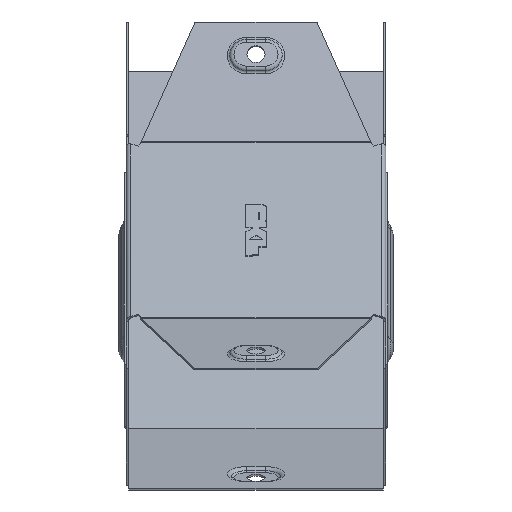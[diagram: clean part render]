
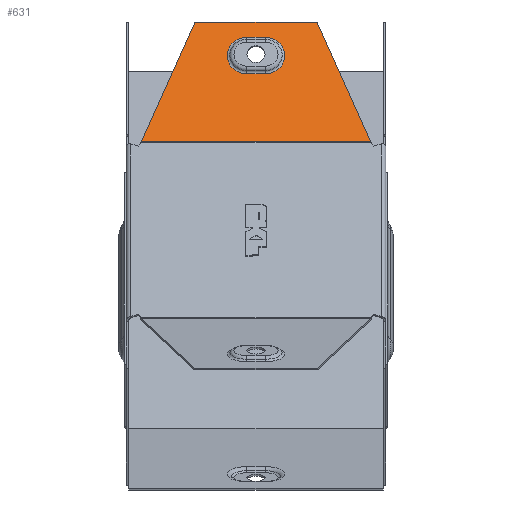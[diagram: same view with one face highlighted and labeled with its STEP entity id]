
A CAD part, front view. The second image highlights one B-rep face of the part: STEP entity #631.
In plain terms, the highlighted planar face has unit normal (0, -0.924, 0.383).
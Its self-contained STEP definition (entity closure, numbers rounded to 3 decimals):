
#10 = PLANE ( 'NONE',  #13091 ) ;
#125 = LINE ( 'NONE', #1134, #5592 ) ;
#631 = ADVANCED_FACE ( 'NONE', ( #11637, #10463 ), #10, .F. ) ;
#1056 = EDGE_CURVE ( 'NONE', #5964, #12971, #125, .T. ) ;
#1134 = CARTESIAN_POINT ( 'NONE',  ( 48.2, 70.076, -1.934 ) ) ;
#1248 = CARTESIAN_POINT ( 'NONE',  ( 3.5, 83.777, 31.142 ) ) ;
#1285 = VERTEX_POINT ( 'NONE', #10682 ) ;
#1595 = DIRECTION ( 'NONE',  ( 0., 0.924, -0.383 ) ) ;
#1774 = ORIENTED_EDGE ( 'NONE', *, *, #1056, .F. ) ;
#1884 = CARTESIAN_POINT ( 'NONE',  ( -23.5, 89.134, 44.076 ) ) ;
#2274 = DIRECTION ( 'NONE',  ( -1., 0., 0. ) ) ;
#2592 = VECTOR ( 'NONE', #8985, 1000. ) ;
#3437 = LINE ( 'NONE', #7061, #10054 ) ;
#3585 = DIRECTION ( 'NONE',  ( 0., 0.924, -0.383 ) ) ;
#3601 = VECTOR ( 'NONE', #2274, 1000. ) ;
#3916 = DIRECTION ( 'NONE',  ( 0., 0.383, 0.924 ) ) ;
#4252 = DIRECTION ( 'NONE',  ( 0., 0.383, 0.924 ) ) ;
#4651 = LINE ( 'NONE', #5510, #3601 ) ;
#4964 = DIRECTION ( 'NONE',  ( -0.383, -0.354, -0.854 ) ) ;
#5170 = EDGE_CURVE ( 'NONE', #7921, #12971, #3437, .T. ) ;
#5307 = CARTESIAN_POINT ( 'NONE',  ( -3.5, 80.869, 24.122 ) ) ;
#5358 = VERTEX_POINT ( 'NONE', #7437 ) ;
#5510 = CARTESIAN_POINT ( 'NONE',  ( 3.5, 80.869, 24.122 ) ) ;
#5592 = VECTOR ( 'NONE', #10813, 1000. ) ;
#5887 = AXIS2_PLACEMENT_3D ( 'NONE', #1248, #3585, #6862 ) ;
#5953 = CARTESIAN_POINT ( 'NONE',  ( -44.128, 70.076, -1.934 ) ) ;
#5964 = VERTEX_POINT ( 'NONE', #7713 ) ;
#6080 = EDGE_CURVE ( 'NONE', #1285, #11420, #13715, .T. ) ;
#6353 = EDGE_CURVE ( 'NONE', #9007, #1285, #7348, .T. ) ;
#6435 = EDGE_CURVE ( 'NONE', #5964, #5358, #10277, .T. ) ;
#6797 = ORIENTED_EDGE ( 'NONE', *, *, #12336, .T. ) ;
#6862 = DIRECTION ( 'NONE',  ( 0., 0.383, 0.924 ) ) ;
#7061 = CARTESIAN_POINT ( 'NONE',  ( -45.217, 69.07, -4.363 ) ) ;
#7166 = DIRECTION ( 'NONE',  ( -0.383, 0.354, 0.854 ) ) ;
#7348 = LINE ( 'NONE', #8077, #12276 ) ;
#7437 = CARTESIAN_POINT ( 'NONE',  ( 23.5, 89.134, 44.076 ) ) ;
#7713 = CARTESIAN_POINT ( 'NONE',  ( 44.128, 70.076, -1.934 ) ) ;
#7768 = ORIENTED_EDGE ( 'NONE', *, *, #6080, .T. ) ;
#7851 = CIRCLE ( 'NONE', #8835, 7.598 ) ;
#7921 = VERTEX_POINT ( 'NONE', #1884 ) ;
#7990 = CARTESIAN_POINT ( 'NONE',  ( 48.2, 89.134, 44.076 ) ) ;
#8077 = CARTESIAN_POINT ( 'NONE',  ( 3.5, 86.684, 38.162 ) ) ;
#8099 = ORIENTED_EDGE ( 'NONE', *, *, #5170, .T. ) ;
#8158 = CARTESIAN_POINT ( 'NONE',  ( 23.5, 89.134, 44.076 ) ) ;
#8169 = CARTESIAN_POINT ( 'NONE',  ( -3.5, 83.777, 31.142 ) ) ;
#8410 = CARTESIAN_POINT ( 'NONE',  ( 3.5, 80.869, 24.122 ) ) ;
#8455 = EDGE_LOOP ( 'NONE', ( #10603, #7768, #13367, #6797 ) ) ;
#8835 = AXIS2_PLACEMENT_3D ( 'NONE', #8169, #1595, #3916 ) ;
#8985 = DIRECTION ( 'NONE',  ( -1., 0., 0. ) ) ;
#9007 = VERTEX_POINT ( 'NONE', #9356 ) ;
#9240 = VECTOR ( 'NONE', #7166, 1000. ) ;
#9356 = CARTESIAN_POINT ( 'NONE',  ( -3.5, 86.684, 38.162 ) ) ;
#9377 = VERTEX_POINT ( 'NONE', #5307 ) ;
#10054 = VECTOR ( 'NONE', #4964, 1000. ) ;
#10277 = LINE ( 'NONE', #8158, #9240 ) ;
#10287 = ORIENTED_EDGE ( 'NONE', *, *, #12132, .T. ) ;
#10463 = FACE_OUTER_BOUND ( 'NONE', #13432, .T. ) ;
#10603 = ORIENTED_EDGE ( 'NONE', *, *, #6353, .T. ) ;
#10682 = CARTESIAN_POINT ( 'NONE',  ( 3.5, 86.684, 38.162 ) ) ;
#10683 = DIRECTION ( 'NONE',  ( 0., 0.924, -0.383 ) ) ;
#10739 = CARTESIAN_POINT ( 'NONE',  ( 48.2, 70., -2.118 ) ) ;
#10813 = DIRECTION ( 'NONE',  ( -1., 0., 0. ) ) ;
#10904 = LINE ( 'NONE', #7990, #2592 ) ;
#11420 = VERTEX_POINT ( 'NONE', #8410 ) ;
#11637 = FACE_BOUND ( 'NONE', #8455, .T. ) ;
#12132 = EDGE_CURVE ( 'NONE', #5358, #7921, #10904, .T. ) ;
#12276 = VECTOR ( 'NONE', #12550, 1000. ) ;
#12336 = EDGE_CURVE ( 'NONE', #9377, #9007, #7851, .T. ) ;
#12550 = DIRECTION ( 'NONE',  ( 1., 0., 0. ) ) ;
#12682 = EDGE_CURVE ( 'NONE', #11420, #9377, #4651, .T. ) ;
#12971 = VERTEX_POINT ( 'NONE', #5953 ) ;
#13091 = AXIS2_PLACEMENT_3D ( 'NONE', #10739, #10683, #4252 ) ;
#13367 = ORIENTED_EDGE ( 'NONE', *, *, #12682, .T. ) ;
#13432 = EDGE_LOOP ( 'NONE', ( #13505, #10287, #8099, #1774 ) ) ;
#13505 = ORIENTED_EDGE ( 'NONE', *, *, #6435, .T. ) ;
#13715 = CIRCLE ( 'NONE', #5887, 7.598 ) ;
